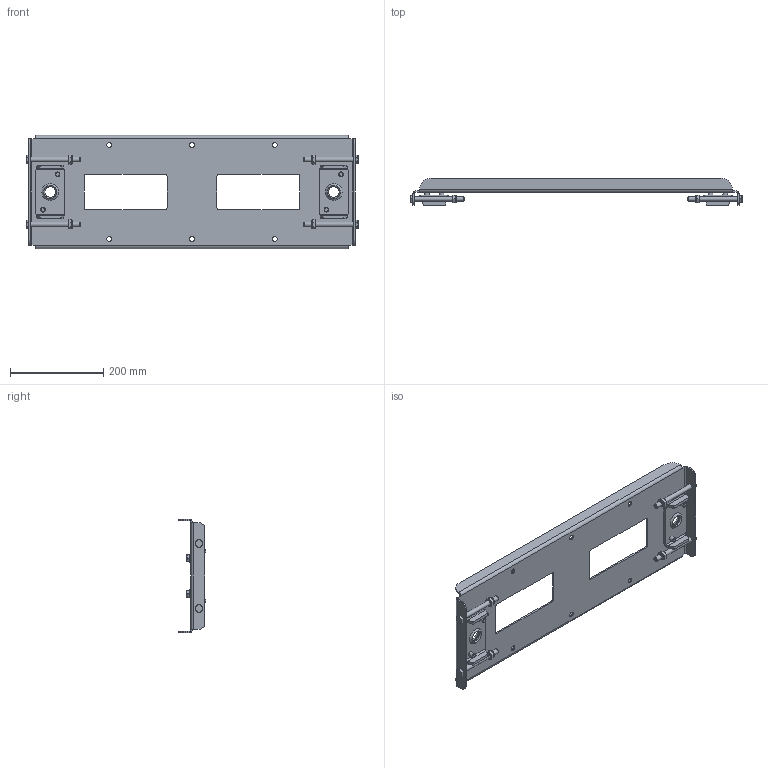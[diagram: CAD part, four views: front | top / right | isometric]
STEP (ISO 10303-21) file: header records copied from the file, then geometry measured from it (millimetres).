
FILE_DESCRIPTION(/* description */ (''),/* implementation_level */ '2;1');
FILE_NAME(/* name */ 'MRAA42051-24.002.stp',/* time_stamp */ '2026-01-20T11:04:04-05:00',/* author */ (''),/* organization */ (''),/* preprocessor_version */ 'ST-DEVELOPER v20',/* originating_system */ 'SIEMENS PLM Software NX2406.9101',/* authorisation */ '');
FILE_SCHEMA (('AUTOMOTIVE_DESIGN { 1 0 10303 214 3 1 1 1 }'));
Length unit declared in the file: millimetre
Products named in the file (1): MRAA42051-24.002
Bounding box: 713.68 x 58.74 x 243.68 mm (x, y, z)
Volume: 739482.3 mm3; surface area: 445016.6 mm2
Topology: 19 solids, 19 shells, 450 faces, 1062 edges, 658 vertices
Faces by surface type: plane 210, cylinder 108, cone 60, torus 52, bspline 16, sphere 4
Full cylindrical faces by diameter (mm): 8.636 x4, 10 x12, 10.922 x10, 16.75 x4, 44.45 x2
Entity records: 16584 total; most frequent: CARTESIAN_POINT 3479, ORIENTED_EDGE 1988, DIRECTION 1922, EDGE_CURVE 994, AXIS2_PLACEMENT_3D 749, VERTEX_POINT 642, EDGE_LOOP 574, PRESENTATION_STYLE_ASSIGNMENT 469
